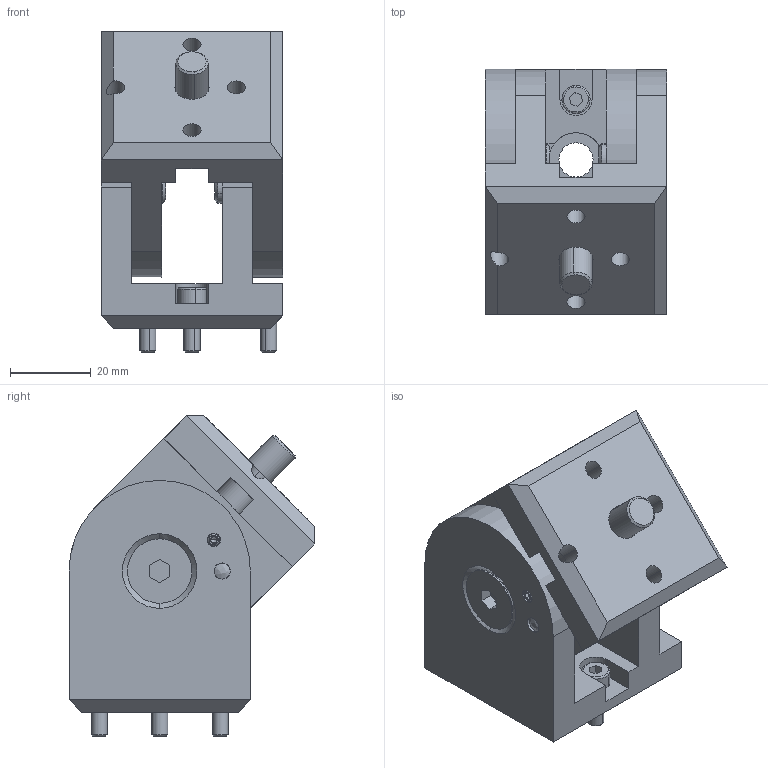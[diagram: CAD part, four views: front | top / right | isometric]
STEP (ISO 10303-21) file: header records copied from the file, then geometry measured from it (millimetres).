
FILE_DESCRIPTION (( 'STEP AP203' ), '1' );
FILE_NAME ('SWIVEL-MOUNT-REV_C - Customer.STEP', '2025-07-01T12:15:59', ( '' ), ( '' ), 'SwSTEP 2.0', 'SolidWorks 2024', '' );
FILE_SCHEMA (( 'CONFIG_CONTROL_DESIGN' ));
Length unit declared in the file: millimetre
Products named in the file (7): vis_pointeau_M4x6_EM_642053X6; Vis CHC M3x12_Vis CHC M 4-12; M8-cap-adjust_M5x12; ACC-01-001_D; Vis FHC_DIN7991 M8x16; GOUP_D4X14_A2; SWIVEL-MOUNT-REV_C - Customer
Assembly tree (11 placements, depth 2):
  SWIVEL-MOUNT-REV_C - Customer
    ACC-01-001_D  x2
    Vis FHC_DIN7991 M8x16  x2
    GOUP_D4X14_A2
    Vis CHC M3x12_Vis CHC M 4-12  x4
    vis_pointeau_M4x6_EM_642053X6
    M8-cap-adjust_M5x12
Bounding box: 45 x 61.04 x 79.54 mm (x, y, z)
Volume: 95433.2 mm3; surface area: 34970.2 mm2
Topology: 11 solids, 11 shells, 268 faces, 651 edges, 412 vertices
Faces by surface type: plane 137, cylinder 86, cone 35, torus 8, bspline 2
Entity records: 5056 total; most frequent: CARTESIAN_POINT 801, DIRECTION 749, ORIENTED_EDGE 672, EDGE_CURVE 336, AXIS2_PLACEMENT_3D 278, VERTEX_POINT 212, VECTOR 193, LINE 193
